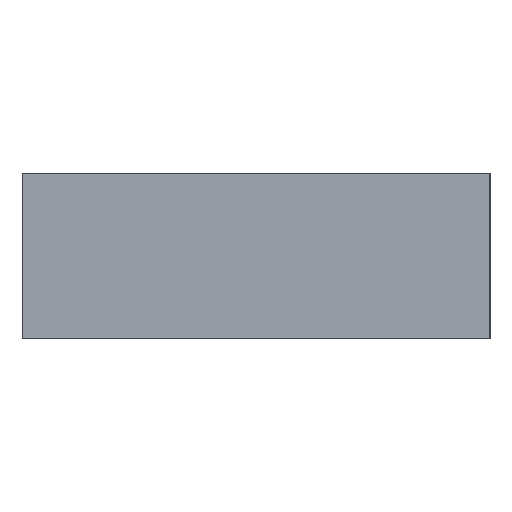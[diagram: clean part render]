
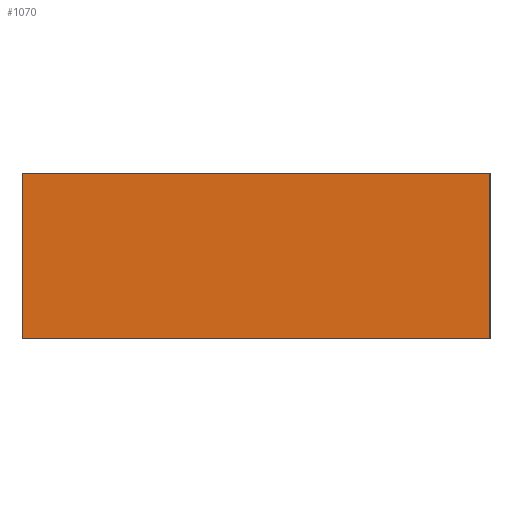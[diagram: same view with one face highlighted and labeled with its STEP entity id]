
A CAD part, left-side view. The second image highlights one B-rep face of the part: STEP entity #1070.
In plain terms, the highlighted planar face has unit normal (-1, 0, 0).
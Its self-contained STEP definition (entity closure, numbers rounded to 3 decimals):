
#147=ORIENTED_EDGE('',*,*,#343,.T.);
#148=ORIENTED_EDGE('',*,*,#344,.F.);
#149=ORIENTED_EDGE('',*,*,#345,.F.);
#150=ORIENTED_EDGE('',*,*,#341,.T.);
#341=EDGE_CURVE('',#434,#433,#507,.T.);
#343=EDGE_CURVE('',#433,#435,#509,.T.);
#344=EDGE_CURVE('',#436,#435,#510,.T.);
#345=EDGE_CURVE('',#434,#436,#511,.T.);
#433=VERTEX_POINT('',#1525);
#434=VERTEX_POINT('',#1527);
#435=VERTEX_POINT('',#1531);
#436=VERTEX_POINT('',#1533);
#507=LINE('',#1526,#577);
#509=LINE('',#1530,#579);
#510=LINE('',#1532,#580);
#511=LINE('',#1534,#581);
#577=VECTOR('',#1274,1000.);
#579=VECTOR('',#1278,1000.);
#580=VECTOR('',#1279,1000.);
#581=VECTOR('',#1280,1000.);
#621=EDGE_LOOP('',(#147,#148,#149,#150));
#681=FACE_BOUND('',#621,.T.);
#736=PLANE('',#1131);
#1070=ADVANCED_FACE('',(#681),#736,.F.);
#1131=AXIS2_PLACEMENT_3D('',#1529,#1276,#1277);
#1274=DIRECTION('',(0.,0.,-1.));
#1276=DIRECTION('',(1.,0.,0.));
#1277=DIRECTION('',(0.,0.,-1.));
#1278=DIRECTION('',(0.,-1.,0.));
#1279=DIRECTION('',(0.,0.,-1.));
#1280=DIRECTION('',(0.,-1.,0.));
#1525=CARTESIAN_POINT('',(0.,8.5,0.));
#1526=CARTESIAN_POINT('',(0.,8.5,3.));
#1527=CARTESIAN_POINT('',(0.,8.5,3.));
#1529=CARTESIAN_POINT('',(0.,8.5,3.));
#1530=CARTESIAN_POINT('',(0.,8.5,0.));
#1531=CARTESIAN_POINT('',(0.,0.,0.));
#1532=CARTESIAN_POINT('',(0.,0.,3.));
#1533=CARTESIAN_POINT('',(0.,0.,3.));
#1534=CARTESIAN_POINT('',(0.,8.5,3.));
